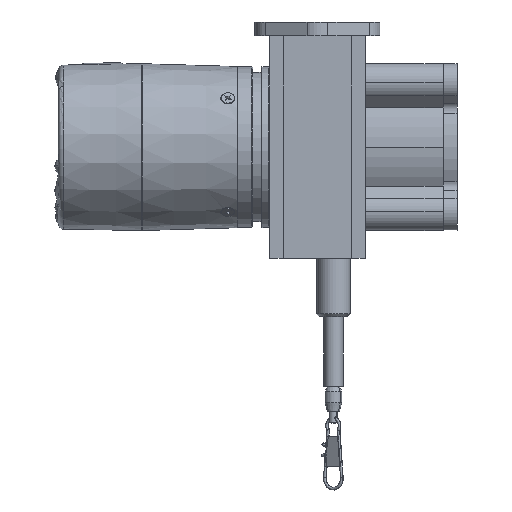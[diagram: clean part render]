
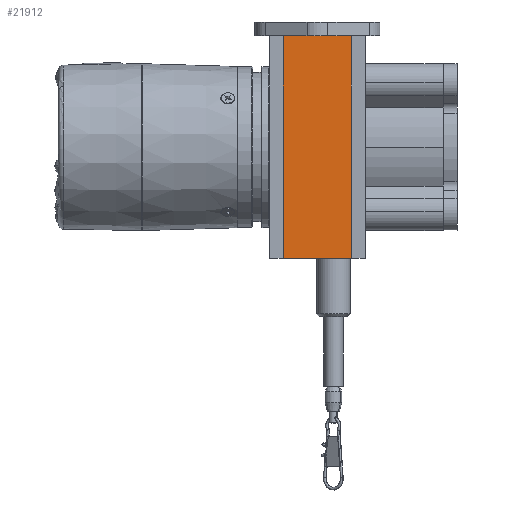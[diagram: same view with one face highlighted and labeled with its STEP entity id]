
A CAD part, front view. The second image highlights one B-rep face of the part: STEP entity #21912.
In plain terms, the highlighted planar face has unit normal (0, -1, 0).
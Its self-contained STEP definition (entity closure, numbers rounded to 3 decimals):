
#2301 = DIRECTION ( 'NONE',  ( 0., 0., -1. ) ) ;
#2303 = VECTOR ( 'NONE', #2301, 1000. ) ;
#2304 = CARTESIAN_POINT ( 'NONE',  ( 0., -40., -40. ) ) ;
#2305 = LINE ( 'NONE', #2304, #2303 ) ;
#2481 = FACE_OUTER_BOUND ( 'NONE', #21832, .T. ) ;
#2562 = DIRECTION ( 'NONE',  ( 0., 0., 1. ) ) ;
#2564 = DIRECTION ( 'NONE',  ( 0., 1., 0. ) ) ;
#2566 = CARTESIAN_POINT ( 'NONE',  ( -24.5, -40., -40. ) ) ;
#2568 = AXIS2_PLACEMENT_3D ( 'NONE', #2566, #2564, #2562 ) ;
#2569 = PLANE ( 'NONE',  #2568 ) ;
#16486 = VERTEX_POINT ( 'NONE', #49566 ) ;
#16487 = VERTEX_POINT ( 'NONE', #49563 ) ;
#16582 = EDGE_CURVE ( 'NONE', #16486, #16487, #50590, .T. ) ;
#16598 = VERTEX_POINT ( 'NONE', #50575 ) ;
#16616 = EDGE_CURVE ( 'NONE', #16487, #16598, #50562, .T. ) ;
#16683 = ORIENTED_EDGE ( 'NONE', *, *, #16616, .F. ) ;
#16685 = ORIENTED_EDGE ( 'NONE', *, *, #16582, .F. ) ;
#16687 = ORIENTED_EDGE ( 'NONE', *, *, #21887, .F. ) ;
#16789 = EDGE_CURVE ( 'NONE', #16598, #16790, #67671, .T. ) ;
#16790 = VERTEX_POINT ( 'NONE', #67667 ) ;
#21758 = ORIENTED_EDGE ( 'NONE', *, *, #16789, .F. ) ;
#21832 = EDGE_LOOP ( 'NONE', ( #21758, #16683, #16685, #16687 ) ) ;
#21887 = EDGE_CURVE ( 'NONE', #16790, #16486, #2305, .T. ) ;
#21912 = ADVANCED_FACE ( 'NONE', ( #2481 ), #2569, .F. ) ;
#49563 = CARTESIAN_POINT ( 'NONE',  ( -24.5, -40., -40. ) ) ;
#49566 = CARTESIAN_POINT ( 'NONE',  ( 0., -40., -40. ) ) ;
#50556 = DIRECTION ( 'NONE',  ( 0., 0., 1. ) ) ;
#50558 = VECTOR ( 'NONE', #50556, 1000. ) ;
#50560 = CARTESIAN_POINT ( 'NONE',  ( -24.5, -40., -40. ) ) ;
#50562 = LINE ( 'NONE', #50560, #50558 ) ;
#50575 = CARTESIAN_POINT ( 'NONE',  ( -24.5, -40., 40. ) ) ;
#50577 = DIRECTION ( 'NONE',  ( -1., 0., 0. ) ) ;
#50578 = VECTOR ( 'NONE', #50577, 1000. ) ;
#50579 = CARTESIAN_POINT ( 'NONE',  ( -24.5, -40., -40. ) ) ;
#50590 = LINE ( 'NONE', #50579, #50578 ) ;
#67667 = CARTESIAN_POINT ( 'NONE',  ( 0., -40., 40. ) ) ;
#67668 = DIRECTION ( 'NONE',  ( 1., 0., 0. ) ) ;
#67669 = VECTOR ( 'NONE', #67668, 1000. ) ;
#67670 = CARTESIAN_POINT ( 'NONE',  ( -24.5, -40., 40. ) ) ;
#67671 = LINE ( 'NONE', #67670, #67669 ) ;
